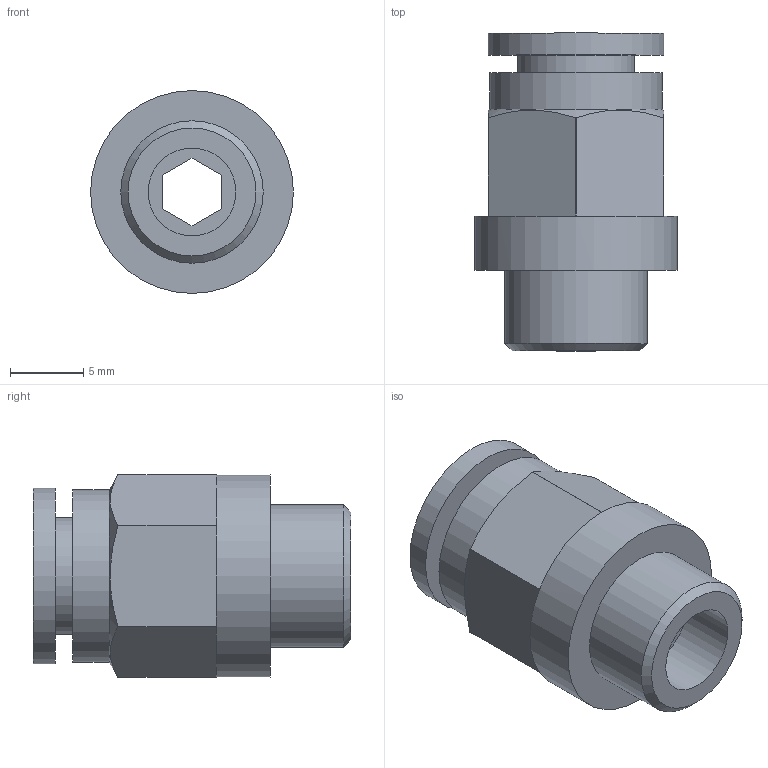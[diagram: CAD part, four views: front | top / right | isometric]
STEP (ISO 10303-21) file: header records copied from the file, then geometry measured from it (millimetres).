
FILE_DESCRIPTION((''),'2;1');
FILE_NAME('S:\UTecnico\ArchivioUT\Speciali Clienti\Speciali KONFIT\Plastica\RP\06\RP 51\RP511806.stp','2012-05-07T11:37:11',('UT5'),(''),'Autodesk Inventor 2012','Autodesk Inventor 2012','');
FILE_SCHEMA(('AUTOMOTIVE_DESIGN { 1 0 10303 214 1 1 1 1 }'));
Length unit declared in the file: millimetre
Products named in the file (1): RP511806
Bounding box: 13.85 x 21.7 x 13.85 mm (x, y, z)
Volume: 1806.4 mm3; surface area: 1587.3 mm2
Topology: 1 solids, 1 shells, 34 faces, 79 edges, 52 vertices
Faces by surface type: plane 25, cylinder 7, cone 2
Full cylindrical faces by diameter (mm): 6 x2, 8 x1, 9.73 x1, 11.8 x1, 12 x1, 13.85 x1
Entity records: 947 total; most frequent: CARTESIAN_POINT 165, DIRECTION 158, ORIENTED_EDGE 136, EDGE_CURVE 68, AXIS2_PLACEMENT_3D 61, VERTEX_POINT 50, EDGE_LOOP 50, VECTOR 36
